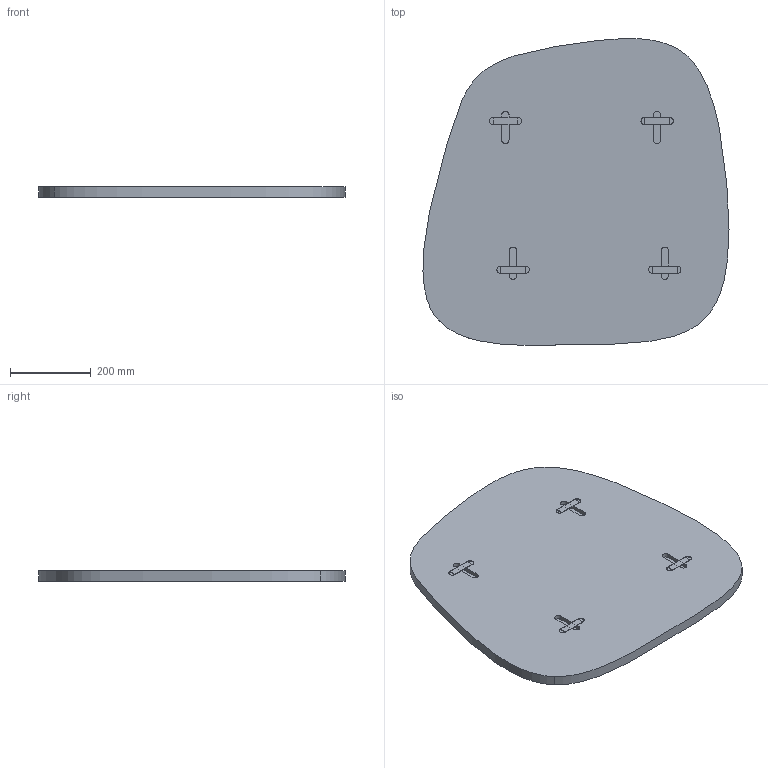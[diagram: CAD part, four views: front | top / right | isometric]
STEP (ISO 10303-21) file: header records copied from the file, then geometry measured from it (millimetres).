
FILE_DESCRIPTION (( 'STEP AP203' ), '1' );
FILE_NAME ('ROU01_Rounded_77x76.STEP', '2024-08-06T07:54:32', ( '' ), ( '' ), 'SwSTEP 2.0', 'SolidWorks 2022', '' );
FILE_SCHEMA (( 'CONFIG_CONTROL_DESIGN' ));
Length unit declared in the file: millimetre
Products named in the file (3): ROU01_Rounded_77x76; ROU00001-00-ROUNDED STRUTTURA GREZZA 77X76_ROUNDED ROU01 77x76; cornice parete_bigger
Assembly tree (1 placements, depth 2):
  ROU01_Rounded_77x76
    ROU00001-00-ROUNDED STRUTTURA GREZZA 77X76_ROUNDED ROU01 77x76
  cornice parete_bigger
Bounding box: 758.25 x 760.3 x 25 mm (x, y, z)
Volume: 10097483.7 mm3; surface area: 1081645 mm2
Topology: 5 solids, 5 shells, 103 faces, 264 edges, 176 vertices
Faces by surface type: plane 63, cylinder 36, bspline 4
Entity records: 5960 total; most frequent: CARTESIAN_POINT 3143, DIRECTION 534, ORIENTED_EDGE 528, EDGE_CURVE 264, VECTOR 184, LINE 184, VERTEX_POINT 176, AXIS2_PLACEMENT_3D 175
